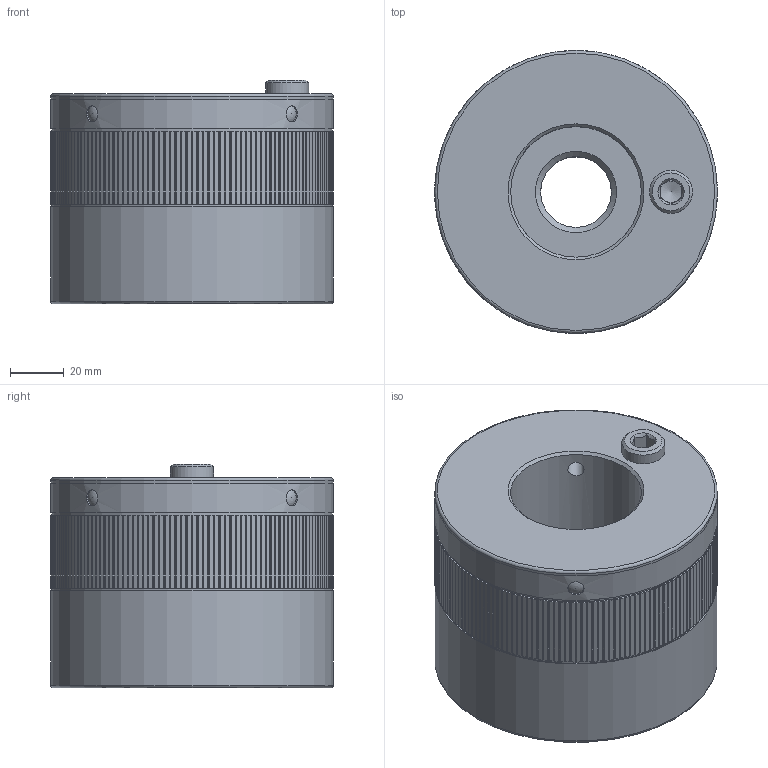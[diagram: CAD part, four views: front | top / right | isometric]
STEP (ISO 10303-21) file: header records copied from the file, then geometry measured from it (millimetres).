
FILE_DESCRIPTION(/* description */ ('Unknown','CAx-IF Rec.Pracs.---Representation and Presentation of Product Manufacturing Information (PMI)---4.0---2014-10-13','CAx-IF Rec.Pracs.---3D Tessellated Geometry---0.4---2014-09-14','2;1'),/* implementation_level */ '2;1');
FILE_NAME(/* name */ 'MDA 180_SW8_M30',/* time_stamp */ '2023-09-15T11:27:17+02:00',/* author */ ('Unknown'),/* organization */ ('Unknown'),/* preprocessor_version */ 'ST-DEVELOPER v18.102',/* originating_system */ 'Solid Edge',/* authorisation */ 'Unknown');
FILE_SCHEMA (('AP242_MANAGED_MODEL_BASED_3D_ENGINEERING_MIM_LF { 1 0 10303 442 1 1 4 }'));
Length unit declared in the file: millimetre
Products named in the file (7): 05933094; 43733051; 42231918; KT100003; 46431916; KT100869; 46331258
Assembly tree (9 placements, depth 2):
  05933094
    43733051
    42231918
    KT100003  x4
    46431916
    KT100869
    46331258
Bounding box: 105 x 105 x 83 mm (x, y, z)
Volume: 514977.1 mm3; surface area: 142954.4 mm2
Topology: 9 solids, 9 shells, 612 faces, 1743 edges, 1150 vertices
Faces by surface type: plane 354, cylinder 205, cone 31, torus 10, sphere 8, bspline 4
Full cylindrical faces by diameter (mm): 1.6 x1, 6 x12, 8 x1, 16 x2, 16.5 x1, 26.211 x1, 48.5 x1, 62 x3, 83.2 x1, 88 x1, 90 x1, 95.5 x1, 95.9 x1, 96 x3, 104 x2, 105 x3
Entity records: 19819 total; most frequent: CARTESIAN_POINT 3880, ORIENTED_EDGE 3220, DIRECTION 3218, EDGE_CURVE 1610, LINE 1154, VECTOR 1154, VERTEX_POINT 1106, AXIS2_PLACEMENT_3D 1032
